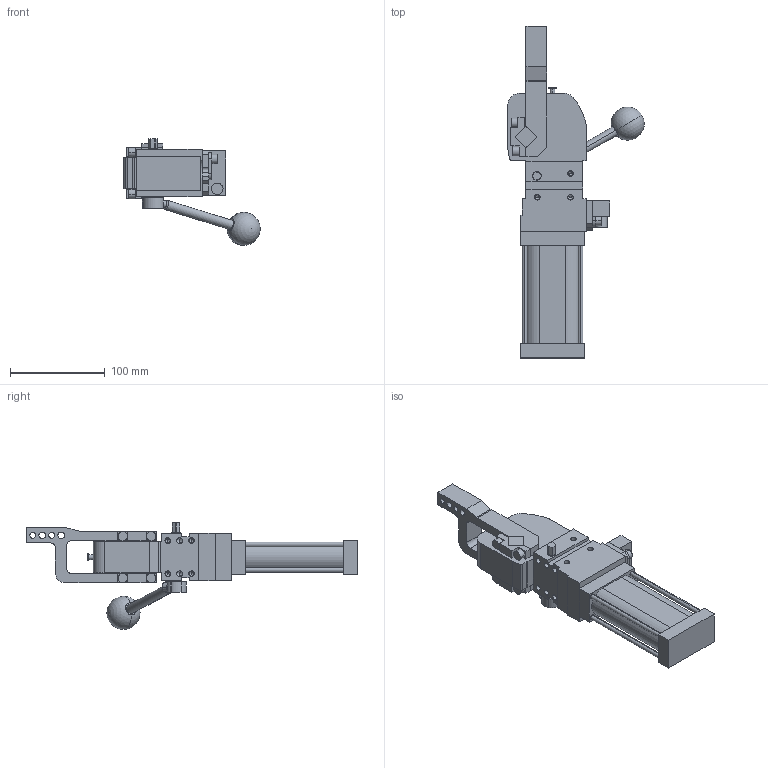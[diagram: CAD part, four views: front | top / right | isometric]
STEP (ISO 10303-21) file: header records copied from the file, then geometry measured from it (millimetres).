
FILE_DESCRIPTION (( 'STEP AP214' ), '1' );
FILE_NAME ('cplm40lbh2ssi1g_91.STEP', '2021-05-25T12:34:20', ( '' ), ( '' ), 'SwSTEP 2.0', 'SolidWorks 2021', '' );
FILE_SCHEMA (( 'AUTOMOTIVE_DESIGN' ));
Length unit declared in the file: millimetre
Products named in the file (6): cplm40lbh2ssi1g_91; meccanica_cplm40; blocchetto_VEP_0_cpl40; comando_manuale_cplm_40; leva_v2s_cpl40; piastra_blocchetto_cpl40
Assembly tree (5 placements, depth 2):
  cplm40lbh2ssi1g_91
    meccanica_cplm40
    blocchetto_VEP_0_cpl40
    piastra_blocchetto_cpl40
    leva_v2s_cpl40
    comando_manuale_cplm_40
Bounding box: 143.62 x 350 x 112.66 mm (x, y, z)
Volume: 801488.4 mm3; surface area: 124975 mm2
Topology: 6 solids, 6 shells, 457 faces, 1171 edges, 737 vertices
Faces by surface type: plane 255, cylinder 154, cone 46, sphere 2
Entity records: 15175 total; most frequent: CARTESIAN_POINT 2441, DIRECTION 2414, ORIENTED_EDGE 2248, EDGE_CURVE 1124, AXIS2_PLACEMENT_3D 829, VECTOR 756, LINE 756, VERTEX_POINT 734
